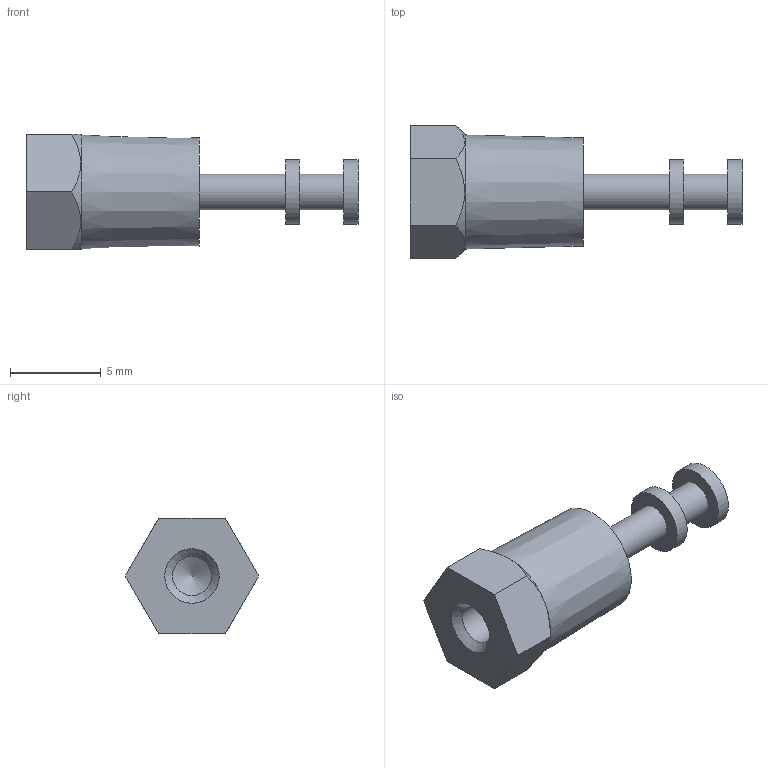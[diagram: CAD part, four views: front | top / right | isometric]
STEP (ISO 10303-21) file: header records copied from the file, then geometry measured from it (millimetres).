
FILE_DESCRIPTION(/* description */ (''),/* implementation_level */ '2;1');
FILE_NAME(/* name */ 'Z:\STEP folder\160-2381-01.ipt.stp',/* time_stamp */ '2016-12-07T10:52:01+00:00',/* author */ ('Paul Karlsons'),/* organization */ (''),/* preprocessor_version */ 'ST-DEVELOPER v15.2',/* originating_system */ 'Autodesk Inventor 2014',/* authorisation */ '');
FILE_SCHEMA (('AUTOMOTIVE_DESIGN { 1 0 10303 214 3 1 1 }'));
Length unit declared in the file: millimetre
Products named in the file (1): 160-2381-01
Bounding box: 18.26 x 7.33 x 6.35 mm (x, y, z)
Volume: 303 mm3; surface area: 397.5 mm2
Topology: 1 solids, 1 shells, 21 faces, 41 edges, 26 vertices
Faces by surface type: plane 12, cylinder 5, cone 4
Full cylindrical faces by diameter (mm): 1.98 x2, 2.156 x1, 3.556 x2
Entity records: 497 total; most frequent: CARTESIAN_POINT 90, DIRECTION 82, ORIENTED_EDGE 62, AXIS2_PLACEMENT_3D 35, EDGE_LOOP 34, EDGE_CURVE 31, VERTEX_POINT 25, ADVANCED_FACE 21
